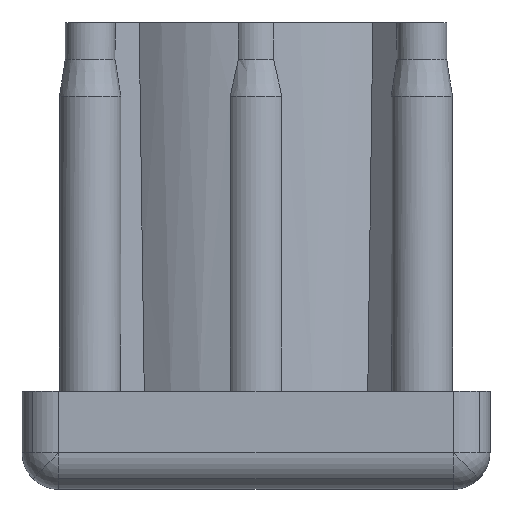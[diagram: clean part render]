
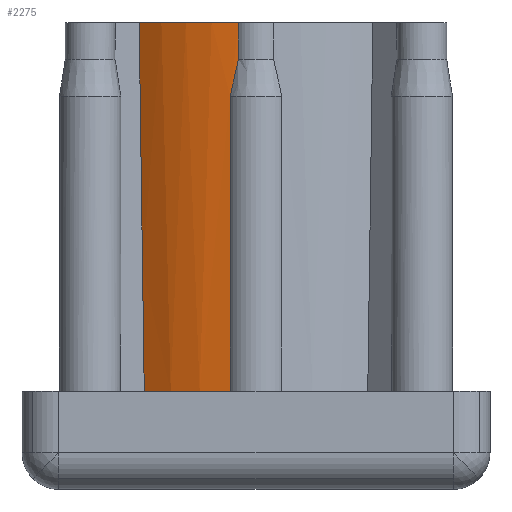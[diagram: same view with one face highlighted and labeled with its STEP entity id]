
A CAD part, front view. The second image highlights one B-rep face of the part: STEP entity #2275.
In plain terms, the highlighted cylindrical face has radius 15 mm (diameter 30 mm), a partial arc.
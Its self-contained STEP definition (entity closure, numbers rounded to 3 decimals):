
#18 = CIRCLE ( 'NONE', #3879, 15. ) ;
#68 = CARTESIAN_POINT ( 'NONE',  ( 0., 0., 37.25 ) ) ;
#86 = ORIENTED_EDGE ( 'NONE', *, *, #2109, .T. ) ;
#174 = DIRECTION ( 'NONE',  ( 0., 0., 1. ) ) ;
#238 = VERTEX_POINT ( 'NONE', #1993 ) ;
#340 = DIRECTION ( 'NONE',  ( 1., 0., 0. ) ) ;
#425 = VERTEX_POINT ( 'NONE', #2159 ) ;
#470 = VECTOR ( 'NONE', #174, 1000. ) ;
#615 = LINE ( 'NONE', #1402, #470 ) ;
#734 = EDGE_CURVE ( 'NONE', #1872, #425, #1560, .T. ) ;
#769 = AXIS2_PLACEMENT_3D ( 'NONE', #1620, #3480, #2546 ) ;
#794 = VERTEX_POINT ( 'NONE', #1617 ) ;
#1022 = CARTESIAN_POINT ( 'NONE',  ( -1.856, -14.887, 32.442 ) ) ;
#1031 = VERTEX_POINT ( 'NONE', #1513 ) ;
#1048 = CARTESIAN_POINT ( 'NONE',  ( -1.632, -14.912, 33.442 ) ) ;
#1094 = DIRECTION ( 'NONE',  ( 0., 0., 1. ) ) ;
#1120 = CARTESIAN_POINT ( 'NONE',  ( -1.432, -14.931, 35.75 ) ) ;
#1288 = CIRCLE ( 'NONE', #3871, 15. ) ;
#1333 = FACE_OUTER_BOUND ( 'NONE', #1656, .T. ) ;
#1402 = CARTESIAN_POINT ( 'NONE',  ( -2.103, -14.852, 22.25 ) ) ;
#1513 = CARTESIAN_POINT ( 'NONE',  ( -9.511, -11.599, 37.25 ) ) ;
#1519 = AXIS2_PLACEMENT_3D ( 'NONE', #2117, #3041, #3640 ) ;
#1560 = B_SPLINE_CURVE_WITH_KNOTS ( 'NONE', 3,
 ( #2890, #1022, #1048, #2562 ),
 .UNSPECIFIED., .F., .F.,
 ( 4, 4 ),
 ( 0., 1. ),
 .UNSPECIFIED. ) ;
#1600 = CARTESIAN_POINT ( 'NONE',  ( 0., 0., 7.25 ) ) ;
#1617 = CARTESIAN_POINT ( 'NONE',  ( -1.432, -14.931, 37.25 ) ) ;
#1620 = CARTESIAN_POINT ( 'NONE',  ( 0., 0., 37.25 ) ) ;
#1652 = DIRECTION ( 'NONE',  ( 0., 0., 1. ) ) ;
#1656 = EDGE_LOOP ( 'NONE', ( #2312, #3608, #3920, #86, #3739, #2972 ) ) ;
#1815 = CARTESIAN_POINT ( 'NONE',  ( -2.103, -14.852, 7.25 ) ) ;
#1872 = VERTEX_POINT ( 'NONE', #2420 ) ;
#1919 = CYLINDRICAL_SURFACE ( 'NONE', #769, 15. ) ;
#1923 = DIRECTION ( 'NONE',  ( 1., 0., 0. ) ) ;
#1993 = CARTESIAN_POINT ( 'NONE',  ( -9.098, -11.926, 7.25 ) ) ;
#2109 = EDGE_CURVE ( 'NONE', #3846, #1872, #615, .T. ) ;
#2117 = CARTESIAN_POINT ( 'NONE',  ( 34110.396, 34110.363, 120.499 ) ) ;
#2146 = EDGE_CURVE ( 'NONE', #425, #794, #3704, .T. ) ;
#2159 = CARTESIAN_POINT ( 'NONE',  ( -1.432, -14.931, 34.25 ) ) ;
#2248 = EDGE_CURVE ( 'NONE', #1031, #238, #3609, .T. ) ;
#2275 = ADVANCED_FACE ( 'NONE', ( #1333 ), #1919, .T. ) ;
#2311 = EDGE_CURVE ( 'NONE', #1031, #794, #1288, .T. ) ;
#2312 = ORIENTED_EDGE ( 'NONE', *, *, #2311, .F. ) ;
#2420 = CARTESIAN_POINT ( 'NONE',  ( -2.103, -14.852, 31.25 ) ) ;
#2546 = DIRECTION ( 'NONE',  ( -1., 0., 0. ) ) ;
#2562 = CARTESIAN_POINT ( 'NONE',  ( -1.432, -14.931, 34.25 ) ) ;
#2739 = EDGE_CURVE ( 'NONE', #238, #3846, #18, .T. ) ;
#2890 = CARTESIAN_POINT ( 'NONE',  ( -2.103, -14.852, 31.25 ) ) ;
#2972 = ORIENTED_EDGE ( 'NONE', *, *, #2146, .T. ) ;
#3041 = DIRECTION ( 'NONE',  ( 0.707, -0.707, 0.017 ) ) ;
#3480 = DIRECTION ( 'NONE',  ( 0., 0., -1. ) ) ;
#3608 = ORIENTED_EDGE ( 'NONE', *, *, #2248, .T. ) ;
#3609 = CIRCLE ( 'NONE', #1519, 48254.36 ) ;
#3640 = DIRECTION ( 'NONE',  ( -0.707, -0.707, -0.002 ) ) ;
#3657 = VECTOR ( 'NONE', #1094, 1000. ) ;
#3704 = LINE ( 'NONE', #1120, #3657 ) ;
#3739 = ORIENTED_EDGE ( 'NONE', *, *, #734, .T. ) ;
#3779 = DIRECTION ( 'NONE',  ( 0., 0., 1. ) ) ;
#3846 = VERTEX_POINT ( 'NONE', #1815 ) ;
#3871 = AXIS2_PLACEMENT_3D ( 'NONE', #68, #3779, #340 ) ;
#3879 = AXIS2_PLACEMENT_3D ( 'NONE', #1600, #1652, #1923 ) ;
#3920 = ORIENTED_EDGE ( 'NONE', *, *, #2739, .T. ) ;
